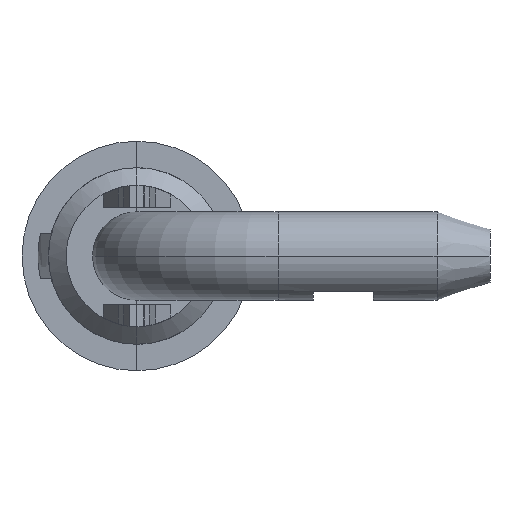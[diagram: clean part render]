
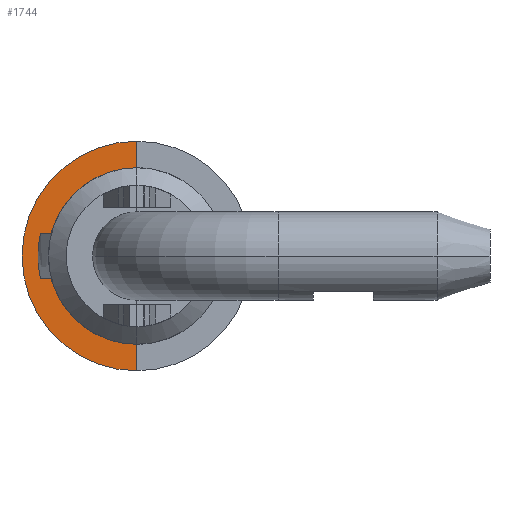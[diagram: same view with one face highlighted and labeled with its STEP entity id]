
A CAD part, front view. The second image highlights one B-rep face of the part: STEP entity #1744.
In plain terms, the highlighted planar face has unit normal (0, -1, 0).
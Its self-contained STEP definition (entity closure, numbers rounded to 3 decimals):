
#105=DIRECTION('',(0.,0.,-1.));
#106=VECTOR('',#105,1.5);
#107=CARTESIAN_POINT('',(0.,-1.5,-5.));
#108=LINE('',#107,#106);
#121=DIRECTION('',(0.,0.,1.));
#122=VECTOR('',#121,1.5);
#123=CARTESIAN_POINT('',(0.,-1.5,5.));
#124=LINE('',#123,#122);
#249=CARTESIAN_POINT('',(0.,-1.5,0.));
#250=DIRECTION('',(0.,-1.,0.));
#251=DIRECTION('',(0.,0.,1.));
#252=AXIS2_PLACEMENT_3D('',#249,#250,#251);
#560=CARTESIAN_POINT('',(0.,-1.5,0.));
#561=DIRECTION('',(0.,-1.,0.));
#562=DIRECTION('',(0.,0.,1.));
#563=AXIS2_PLACEMENT_3D('',#560,#561,#562);
#924=CARTESIAN_POINT('',(0.,-1.5,-5.));
#925=CARTESIAN_POINT('',(0.,-1.5,-6.5));
#926=VERTEX_POINT('',#924);
#927=VERTEX_POINT('',#925);
#928=CARTESIAN_POINT('',(0.,-1.5,5.));
#929=CARTESIAN_POINT('',(0.,-1.5,6.5));
#930=VERTEX_POINT('',#928);
#931=VERTEX_POINT('',#929);
#1733=CARTESIAN_POINT('',(0.,-1.5,0.));
#1734=DIRECTION('',(0.,-1.,0.));
#1735=DIRECTION('',(0.,0.,-1.));
#1736=AXIS2_PLACEMENT_3D('',#1733,#1734,#1735);
#1737=PLANE('',#1736);
#1738=ORIENTED_EDGE('',*,*,#1181,.T.);
#1739=ORIENTED_EDGE('',*,*,#1727,.F.);
#1740=ORIENTED_EDGE('',*,*,#1217,.F.);
#1741=ORIENTED_EDGE('',*,*,#1341,.T.);
#1742=EDGE_LOOP('',(#1738,#1739,#1740,#1741));
#1743=FACE_OUTER_BOUND('',#1742,.F.);
#1744=ADVANCED_FACE('',(#1743),#1737,.T.);
#253=CIRCLE('',#252,5.);
#564=CIRCLE('',#563,6.5);
#1181=EDGE_CURVE('',#926,#927,#108,.T.);
#1217=EDGE_CURVE('',#930,#931,#124,.T.);
#1341=EDGE_CURVE('',#930,#926,#253,.T.);
#1727=EDGE_CURVE('',#931,#927,#564,.T.);
